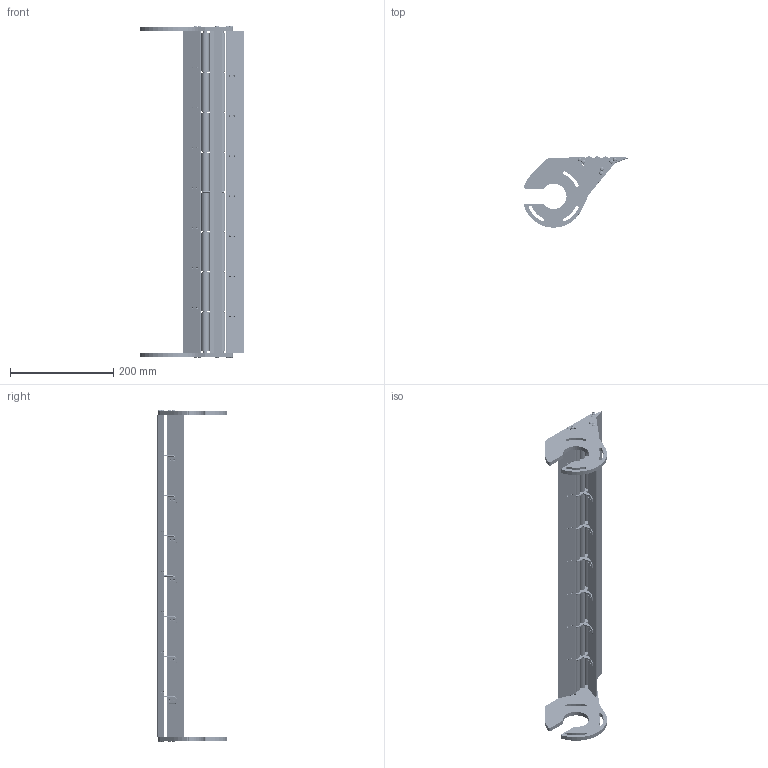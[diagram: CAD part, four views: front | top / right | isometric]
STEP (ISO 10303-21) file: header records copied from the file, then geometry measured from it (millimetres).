
FILE_DESCRIPTION (( 'STEP AP214' ), '1' );
FILE_NAME ('CAB 24 TGRI 2.STEP', '2024-02-27T08:07:19', ( '' ), ( '' ), 'SwSTEP 2.0', 'SolidWorks 2022', '' );
FILE_SCHEMA (( 'AUTOMOTIVE_DESIGN' ));
Length unit declared in the file: millimetre
Products named in the file (14): SA TGRI + ENTRETOISE; Insert M4 TB; CAB 24 TGRI 2; ENTRETOISE TGRI CAB-F2-R-HEF; PT-F2 - CAB 24 ALU; Galet + roulement CAB 24; AXE TGRI CAB 24; PSTI CAB 2; PSTI CAB 2 Symétrie; GR CAB 24; ENTRETOISE SA TGRI; ROULEMENT TGRI CAB FLEXTOO; TBHC 4X16; SA TGRI
Assembly tree (78 placements, depth 3):
  CAB 24 TGRI 2
    PSTI CAB 2 Symétrie
    PSTI CAB 2
    PT-F2 - CAB 24 ALU  x3
    AXE TGRI CAB 24  x3
    ENTRETOISE TGRI CAB-F2-R-HEF  x6
    SA TGRI + ENTRETOISE  x7
      SA TGRI
      ENTRETOISE SA TGRI
    Galet + roulement CAB 24  x24
      GR CAB 24
      ROULEMENT TGRI CAB FLEXTOO
    TBHC 4X16  x12
    Insert M4 TB  x14
Bounding box: 200.67 x 136.6 x 641.78 mm (x, y, z)
Volume: 968577.8 mm3; surface area: 447303.8 mm2
Topology: 140 solids, 140 shells, 4938 faces, 10968 edges, 6459 vertices
Faces by surface type: cone 1676, cylinder 1635, plane 792, torus 709, sphere 91, bspline 35
Entity records: 19141 total; most frequent: CARTESIAN_POINT 3512, DIRECTION 3436, ORIENTED_EDGE 2786, AXIS2_PLACEMENT_3D 1406, EDGE_CURVE 1393, VERTEX_POINT 843, CIRCLE 731, EDGE_LOOP 668
